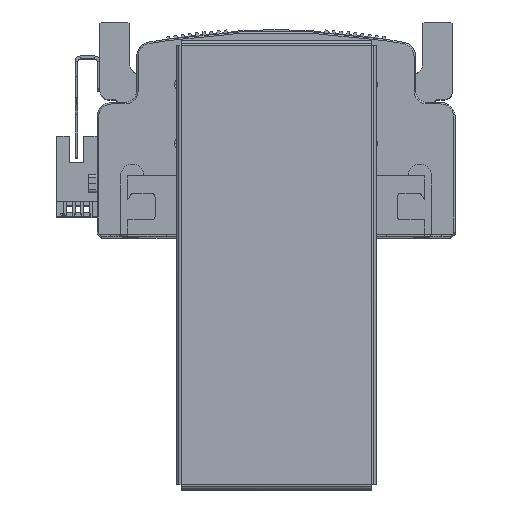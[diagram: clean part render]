
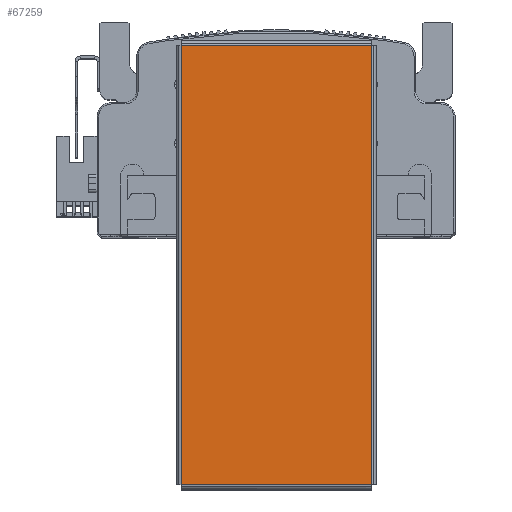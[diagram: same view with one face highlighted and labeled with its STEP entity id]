
A CAD part, top view. The second image highlights one B-rep face of the part: STEP entity #67259.
In plain terms, the highlighted planar face has unit normal (0, 0, 1) as drawn and (0, 0, -1) by its records, which use the part's own axes.
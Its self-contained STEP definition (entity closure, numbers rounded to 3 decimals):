
#1345 = DIRECTION ( 'NONE',  ( -1., 0., 0. ) ) ;
#1362 = CARTESIAN_POINT ( 'NONE',  ( -74.793, 32.363, -1. ) ) ;
#1376 = DIRECTION ( 'NONE',  ( 1., 0., 0. ) ) ;
#1412 = CARTESIAN_POINT ( 'NONE',  ( 74.793, -32.363, -1. ) ) ;
#1531 = DIRECTION ( 'NONE',  ( 0., 1., 0. ) ) ;
#1545 = CARTESIAN_POINT ( 'NONE',  ( -74.763, -32.393, -1. ) ) ;
#1563 = CARTESIAN_POINT ( 'NONE',  ( 74.763, 32.393, -1. ) ) ;
#1565 = DIRECTION ( 'NONE',  ( 0., -1., 0. ) ) ;
#15381 = CARTESIAN_POINT ( 'NONE',  ( 0., 0., -1. ) ) ;
#15386 = DIRECTION ( 'NONE',  ( 0., 0., 1. ) ) ;
#15388 = DIRECTION ( 'NONE',  ( 1., 0., 0. ) ) ;
#15427 = PLANE ( 'NONE',  #52515 ) ;
#26305 = EDGE_CURVE ( 'NONE', #58812, #58790, #32855, .T. ) ;
#26306 = EDGE_CURVE ( 'NONE', #58779, #58785, #32845, .T. ) ;
#26333 = EDGE_CURVE ( 'NONE', #58785, #58812, #32910, .T. ) ;
#26336 = EDGE_CURVE ( 'NONE', #58790, #58779, #32911, .T. ) ;
#32842 = VECTOR ( 'NONE', #1345, 1000. ) ;
#32845 = LINE ( 'NONE', #1362, #32846 ) ;
#32846 = VECTOR ( 'NONE', #1376, 1000. ) ;
#32855 = LINE ( 'NONE', #1412, #32842 ) ;
#32910 = LINE ( 'NONE', #1563, #32952 ) ;
#32911 = LINE ( 'NONE', #1545, #32949 ) ;
#32949 = VECTOR ( 'NONE', #1531, 1000. ) ;
#32952 = VECTOR ( 'NONE', #1565, 1000. ) ;
#45148 = CARTESIAN_POINT ( 'NONE',  ( 74.763, 32.363, -1. ) ) ;
#45219 = CARTESIAN_POINT ( 'NONE',  ( -74.763, -32.363, -1. ) ) ;
#45252 = CARTESIAN_POINT ( 'NONE',  ( -74.763, 32.363, -1. ) ) ;
#45330 = CARTESIAN_POINT ( 'NONE',  ( 74.763, -32.363, -1. ) ) ;
#51857 = EDGE_LOOP ( 'NONE', ( #64124, #64153, #64121, #64151 ) ) ;
#52515 = AXIS2_PLACEMENT_3D ( 'NONE', #15381, #15386, #15388 ) ;
#58779 = VERTEX_POINT ( 'NONE', #45252 ) ;
#58785 = VERTEX_POINT ( 'NONE', #45148 ) ;
#58790 = VERTEX_POINT ( 'NONE', #45219 ) ;
#58812 = VERTEX_POINT ( 'NONE', #45330 ) ;
#64121 = ORIENTED_EDGE ( 'NONE', *, *, #26336, .T. ) ;
#64124 = ORIENTED_EDGE ( 'NONE', *, *, #26333, .T. ) ;
#64151 = ORIENTED_EDGE ( 'NONE', *, *, #26306, .T. ) ;
#64153 = ORIENTED_EDGE ( 'NONE', *, *, #26305, .T. ) ;
#67259 = ADVANCED_FACE ( 'NONE', ( #69326 ), #15427, .F. ) ;
#69326 = FACE_OUTER_BOUND ( 'NONE', #51857, .T. ) ;
